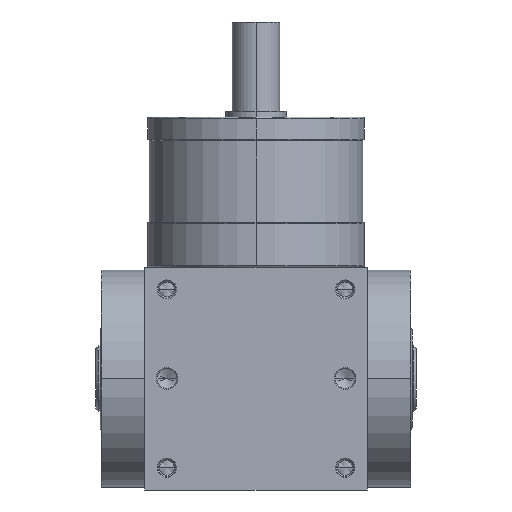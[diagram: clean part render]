
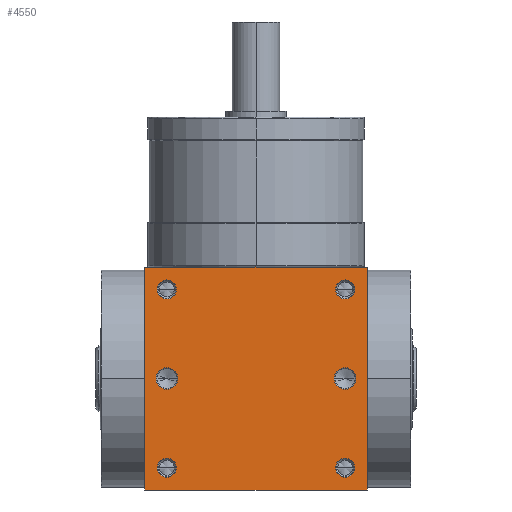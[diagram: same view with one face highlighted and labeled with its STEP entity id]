
A CAD part, front view. The second image highlights one B-rep face of the part: STEP entity #4550.
In plain terms, the highlighted planar face has unit normal (0, -1, 0).
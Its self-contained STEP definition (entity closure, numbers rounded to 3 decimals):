
#5=DIRECTION('',(1.,0.,0.));
#6=VECTOR('',#5,75.);
#7=CARTESIAN_POINT('',(-37.5,-37.5,-37.5));
#8=LINE('',#7,#6);
#155=DIRECTION('',(0.,0.,1.));
#156=VECTOR('',#155,75.);
#157=CARTESIAN_POINT('',(37.5,-37.5,-37.5));
#158=LINE('',#157,#156);
#209=DIRECTION('',(0.,0.,1.));
#210=VECTOR('',#209,75.);
#211=CARTESIAN_POINT('',(-37.5,-37.5,-37.5));
#212=LINE('',#211,#210);
#213=CARTESIAN_POINT('',(30.,-37.5,30.));
#214=DIRECTION('',(0.,1.,0.));
#215=DIRECTION('',(-1.,0.,0.));
#216=AXIS2_PLACEMENT_3D('',#213,#214,#215);
#218=CARTESIAN_POINT('',(30.,-37.5,30.));
#219=DIRECTION('',(0.,1.,0.));
#220=DIRECTION('',(1.,0.,0.));
#221=AXIS2_PLACEMENT_3D('',#218,#219,#220);
#223=CARTESIAN_POINT('',(-30.,-37.5,30.));
#224=DIRECTION('',(0.,1.,0.));
#225=DIRECTION('',(-1.,0.,0.));
#226=AXIS2_PLACEMENT_3D('',#223,#224,#225);
#228=CARTESIAN_POINT('',(-30.,-37.5,30.));
#229=DIRECTION('',(0.,1.,0.));
#230=DIRECTION('',(1.,0.,0.));
#231=AXIS2_PLACEMENT_3D('',#228,#229,#230);
#233=CARTESIAN_POINT('',(30.,-37.5,-30.));
#234=DIRECTION('',(0.,1.,0.));
#235=DIRECTION('',(-1.,0.,0.));
#236=AXIS2_PLACEMENT_3D('',#233,#234,#235);
#238=CARTESIAN_POINT('',(30.,-37.5,-30.));
#239=DIRECTION('',(0.,1.,0.));
#240=DIRECTION('',(1.,0.,0.));
#241=AXIS2_PLACEMENT_3D('',#238,#239,#240);
#243=CARTESIAN_POINT('',(-30.,-37.5,-30.));
#244=DIRECTION('',(0.,1.,0.));
#245=DIRECTION('',(-1.,0.,0.));
#246=AXIS2_PLACEMENT_3D('',#243,#244,#245);
#248=CARTESIAN_POINT('',(-30.,-37.5,-30.));
#249=DIRECTION('',(0.,1.,0.));
#250=DIRECTION('',(1.,0.,0.));
#251=AXIS2_PLACEMENT_3D('',#248,#249,#250);
#253=CARTESIAN_POINT('',(-30.,-37.5,0.));
#254=DIRECTION('',(0.,1.,0.));
#255=DIRECTION('',(1.,0.,0.));
#256=AXIS2_PLACEMENT_3D('',#253,#254,#255);
#258=CARTESIAN_POINT('',(-30.,-37.5,0.));
#259=DIRECTION('',(0.,1.,0.));
#260=DIRECTION('',(-1.,0.,0.));
#261=AXIS2_PLACEMENT_3D('',#258,#259,#260);
#263=CARTESIAN_POINT('',(30.,-37.5,0.));
#264=DIRECTION('',(0.,1.,0.));
#265=DIRECTION('',(1.,0.,0.));
#266=AXIS2_PLACEMENT_3D('',#263,#264,#265);
#268=CARTESIAN_POINT('',(30.,-37.5,0.));
#269=DIRECTION('',(0.,1.,0.));
#270=DIRECTION('',(-1.,0.,0.));
#271=AXIS2_PLACEMENT_3D('',#268,#269,#270);
#285=DIRECTION('',(1.,0.,0.));
#286=VECTOR('',#285,75.);
#287=CARTESIAN_POINT('',(-37.5,-37.5,37.5));
#288=LINE('',#287,#286);
#3668=CARTESIAN_POINT('',(-37.5,-37.5,-37.5));
#3670=VERTEX_POINT('',#3668);
#3671=CARTESIAN_POINT('',(37.5,-37.5,-37.5));
#3672=VERTEX_POINT('',#3671);
#3676=CARTESIAN_POINT('',(-37.5,-37.5,37.5));
#3678=VERTEX_POINT('',#3676);
#3679=CARTESIAN_POINT('',(37.5,-37.5,37.5));
#3680=VERTEX_POINT('',#3679);
#3835=CARTESIAN_POINT('',(26.8,-37.5,30.));
#3836=CARTESIAN_POINT('',(33.2,-37.5,30.));
#3837=VERTEX_POINT('',#3835);
#3838=VERTEX_POINT('',#3836);
#3843=CARTESIAN_POINT('',(-33.2,-37.5,30.));
#3844=CARTESIAN_POINT('',(-26.8,-37.5,30.));
#3845=VERTEX_POINT('',#3843);
#3846=VERTEX_POINT('',#3844);
#3851=CARTESIAN_POINT('',(26.8,-37.5,-30.));
#3852=CARTESIAN_POINT('',(33.2,-37.5,-30.));
#3853=VERTEX_POINT('',#3851);
#3854=VERTEX_POINT('',#3852);
#3859=CARTESIAN_POINT('',(-33.2,-37.5,-30.));
#3860=CARTESIAN_POINT('',(-26.8,-37.5,-30.));
#3861=VERTEX_POINT('',#3859);
#3862=VERTEX_POINT('',#3860);
#4183=CARTESIAN_POINT('',(-26.35,-37.5,0.));
#4184=CARTESIAN_POINT('',(-33.65,-37.5,
0.));
#4185=VERTEX_POINT('',#4183);
#4186=VERTEX_POINT('',#4184);
#4191=CARTESIAN_POINT('',(33.65,-37.5,0.));
#4192=CARTESIAN_POINT('',(26.35,-37.5,0.));
#4193=VERTEX_POINT('',#4191);
#4194=VERTEX_POINT('',#4192);
#4502=CARTESIAN_POINT('',(-37.5,-37.5,-37.5));
#4503=DIRECTION('',(0.,-1.,0.));
#4504=DIRECTION('',(1.,0.,0.));
#4505=AXIS2_PLACEMENT_3D('',#4502,#4503,#4504);
#4506=PLANE('',#4505);
#4507=ORIENTED_EDGE('',*,*,#4342,.F.);
#4508=ORIENTED_EDGE('',*,*,#4385,.T.);
#4510=ORIENTED_EDGE('',*,*,#4509,.T.);
#4511=ORIENTED_EDGE('',*,*,#4464,.F.);
#4512=EDGE_LOOP('',(#4507,#4508,#4510,#4511));
#4513=FACE_OUTER_BOUND('',#4512,.F.);
#4515=ORIENTED_EDGE('',*,*,#4514,.F.);
#4517=ORIENTED_EDGE('',*,*,#4516,.F.);
#4518=EDGE_LOOP('',(#4515,#4517));
#4519=FACE_BOUND('',#4518,.F.);
#4521=ORIENTED_EDGE('',*,*,#4520,.F.);
#4523=ORIENTED_EDGE('',*,*,#4522,.F.);
#4524=EDGE_LOOP('',(#4521,#4523));
#4525=FACE_BOUND('',#4524,.F.);
#4527=ORIENTED_EDGE('',*,*,#4526,.F.);
#4529=ORIENTED_EDGE('',*,*,#4528,.F.);
#4530=EDGE_LOOP('',(#4527,#4529));
#4531=FACE_BOUND('',#4530,.F.);
#4533=ORIENTED_EDGE('',*,*,#4532,.F.);
#4535=ORIENTED_EDGE('',*,*,#4534,.F.);
#4536=EDGE_LOOP('',(#4533,#4535));
#4537=FACE_BOUND('',#4536,.F.);
#4539=ORIENTED_EDGE('',*,*,#4538,.F.);
#4541=ORIENTED_EDGE('',*,*,#4540,.F.);
#4542=EDGE_LOOP('',(#4539,#4541));
#4543=FACE_BOUND('',#4542,.F.);
#4545=ORIENTED_EDGE('',*,*,#4544,.F.);
#4547=ORIENTED_EDGE('',*,*,#4546,.F.);
#4548=EDGE_LOOP('',(#4545,#4547));
#4549=FACE_BOUND('',#4548,.F.);
#4550=ADVANCED_FACE('',(#4513,#4519,#4525,#4531,#4537,#4543,#4549),#4506,.T.);
#217=CIRCLE('',#216,3.2);
#222=CIRCLE('',#221,3.2);
#227=CIRCLE('',#226,3.2);
#232=CIRCLE('',#231,3.2);
#237=CIRCLE('',#236,3.2);
#242=CIRCLE('',#241,3.2);
#247=CIRCLE('',#246,3.2);
#252=CIRCLE('',#251,3.2);
#257=CIRCLE('',#256,3.65);
#262=CIRCLE('',#261,3.65);
#267=CIRCLE('',#266,3.65);
#272=CIRCLE('',#271,3.65);
#4342=EDGE_CURVE('',#3670,#3672,#8,.T.);
#4385=EDGE_CURVE('',#3670,#3678,#212,.T.);
#4464=EDGE_CURVE('',#3672,#3680,#158,.T.);
#4509=EDGE_CURVE('',#3678,#3680,#288,.T.);
#4514=EDGE_CURVE('',#3837,#3838,#217,.T.);
#4516=EDGE_CURVE('',#3838,#3837,#222,.T.);
#4520=EDGE_CURVE('',#3845,#3846,#227,.T.);
#4522=EDGE_CURVE('',#3846,#3845,#232,.T.);
#4526=EDGE_CURVE('',#3853,#3854,#237,.T.);
#4528=EDGE_CURVE('',#3854,#3853,#242,.T.);
#4532=EDGE_CURVE('',#3861,#3862,#247,.T.);
#4534=EDGE_CURVE('',#3862,#3861,#252,.T.);
#4538=EDGE_CURVE('',#4185,#4186,#257,.T.);
#4540=EDGE_CURVE('',#4186,#4185,#262,.T.);
#4544=EDGE_CURVE('',#4193,#4194,#267,.T.);
#4546=EDGE_CURVE('',#4194,#4193,#272,.T.);
